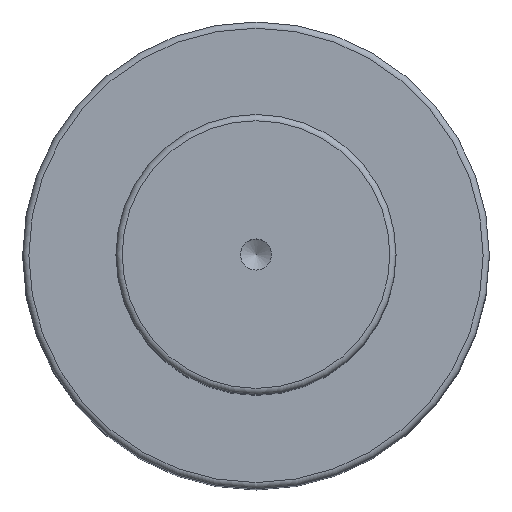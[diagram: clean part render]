
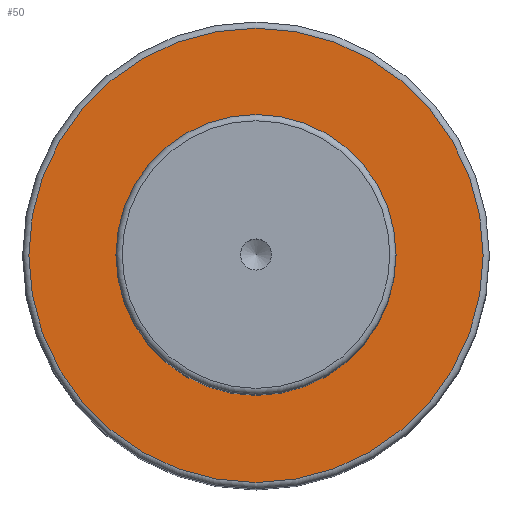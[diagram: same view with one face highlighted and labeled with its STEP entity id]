
A CAD part, top view. The second image highlights one B-rep face of the part: STEP entity #50.
In plain terms, the highlighted planar face has unit normal (0, 0, 1).
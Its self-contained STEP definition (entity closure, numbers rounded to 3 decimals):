
#40=PLANE('',#179);
#50=ADVANCED_FACE('',(#72,#73),#40,.F.);
#72=FACE_BOUND('',#96,.T.);
#73=FACE_BOUND('',#97,.T.);
#96=EDGE_LOOP('',(#118));
#97=EDGE_LOOP('',(#119));
#118=ORIENTED_EDGE('',*,*,#149,.F.);
#119=ORIENTED_EDGE('',*,*,#148,.T.);
#135=VERTEX_POINT('',#256);
#136=VERTEX_POINT('',#259);
#148=EDGE_CURVE('',#135,#135,#159,.T.);
#149=EDGE_CURVE('',#136,#136,#160,.T.);
#159=CIRCLE('',#176,22.5);
#160=CIRCLE('',#178,36.5);
#176=AXIS2_PLACEMENT_3D('',#255,#213,#214);
#178=AXIS2_PLACEMENT_3D('',#258,#217,#218);
#179=AXIS2_PLACEMENT_3D('',#260,#219,#220);
#213=DIRECTION('',(0.,0.,-1.));
#214=DIRECTION('',(-1.,0.,0.));
#217=DIRECTION('',(0.,0.,-1.));
#218=DIRECTION('',(-1.,0.,0.));
#219=DIRECTION('',(0.,0.,-1.));
#220=DIRECTION('',(-1.,0.,0.));
#255=CARTESIAN_POINT('',(0.,0.,114.));
#256=CARTESIAN_POINT('',(-22.5,0.,114.));
#258=CARTESIAN_POINT('',(0.,0.,114.));
#259=CARTESIAN_POINT('',(-36.5,0.,114.));
#260=CARTESIAN_POINT('',(22.5,0.,114.));
